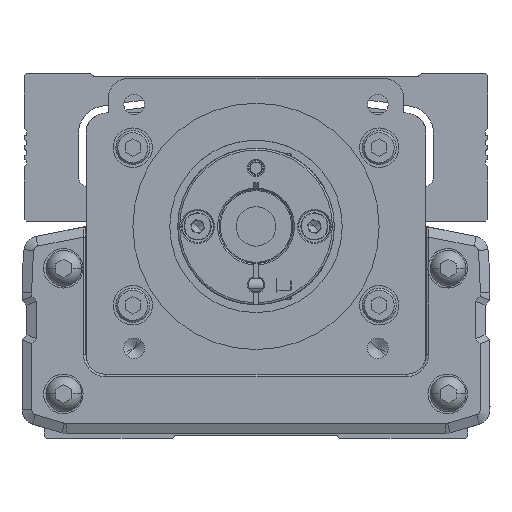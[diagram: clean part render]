
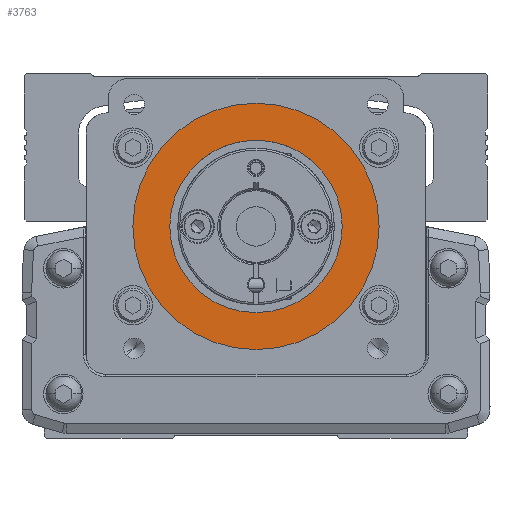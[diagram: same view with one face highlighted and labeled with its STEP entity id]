
A CAD part, front view. The second image highlights one B-rep face of the part: STEP entity #3763.
In plain terms, the highlighted planar face has unit normal (0, -1, 0).
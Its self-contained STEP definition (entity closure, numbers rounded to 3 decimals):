
#3763=ADVANCED_FACE('',(#10010,#10011),#10012,.T.);
#10010=FACE_BOUND('',#19448,.T.);
#10011=FACE_OUTER_BOUND('',#19449,.T.);
#10012=PLANE('',#19450);
#19448=EDGE_LOOP('',(#31953,#31954));
#19449=EDGE_LOOP('',(#31955,#31956));
#19450=AXIS2_PLACEMENT_3D('',#31957,#31958,#31959);
#31953=ORIENTED_EDGE('',*,*,#57173,.T.);
#31954=ORIENTED_EDGE('',*,*,#57174,.T.);
#31955=ORIENTED_EDGE('',*,*,#57175,.F.);
#31956=ORIENTED_EDGE('',*,*,#57176,.F.);
#31957=CARTESIAN_POINT('',(0.,64.222,0.));
#31958=DIRECTION('',(0.,-1.0,0.));
#31959=DIRECTION('',(1.0,0.,0.));
#57173=EDGE_CURVE('',#68739,#68740,#68741,.T.);
#57174=EDGE_CURVE('',#68740,#68739,#68742,.T.);
#57175=EDGE_CURVE('',#68743,#68744,#68745,.T.);
#57176=EDGE_CURVE('',#68744,#68743,#68746,.T.);
#68739=VERTEX_POINT('',#84844);
#68740=VERTEX_POINT('',#84845);
#68741=CIRCLE('',#84846,17.5);
#68742=CIRCLE('',#84847,17.5);
#68743=VERTEX_POINT('',#84848);
#68744=VERTEX_POINT('',#84849);
#68745=CIRCLE('',#84850,25.0);
#68746=CIRCLE('',#84851,25.0);
#84844=CARTESIAN_POINT('',(17.5,64.222,0.));
#84845=CARTESIAN_POINT('',(-17.5,64.222,0.));
#84846=AXIS2_PLACEMENT_3D('',#104608,#104609,#104610);
#84847=AXIS2_PLACEMENT_3D('',#104611,#104612,#104613);
#84848=CARTESIAN_POINT('',(25.,64.222,0.));
#84849=CARTESIAN_POINT('',(-25.,64.222,0.));
#84850=AXIS2_PLACEMENT_3D('',#104614,#104615,#104616);
#84851=AXIS2_PLACEMENT_3D('',#104617,#104618,#104619);
#104608=CARTESIAN_POINT('',(0.,64.222,0.));
#104609=DIRECTION('',(0.,1.0,0.));
#104610=DIRECTION('',(-1.0,0.,0.));
#104611=CARTESIAN_POINT('',(0.,64.222,0.));
#104612=DIRECTION('',(0.,1.0,0.));
#104613=DIRECTION('',(-1.0,0.,0.));
#104614=CARTESIAN_POINT('',(0.,64.222,0.));
#104615=DIRECTION('',(0.,1.0,0.));
#104616=DIRECTION('',(1.0,0.,0.));
#104617=CARTESIAN_POINT('',(0.,64.222,0.));
#104618=DIRECTION('',(0.,1.0,0.));
#104619=DIRECTION('',(1.0,0.,0.));
